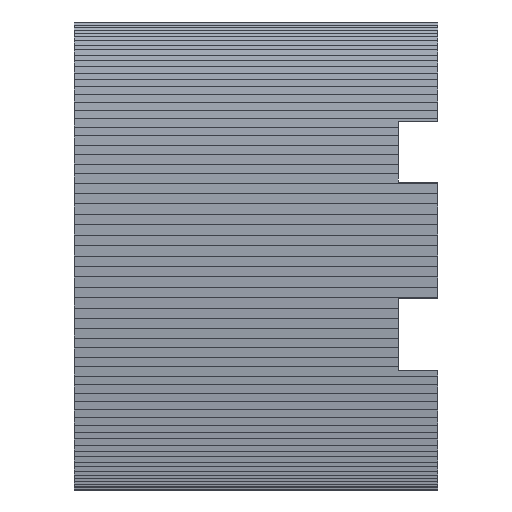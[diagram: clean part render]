
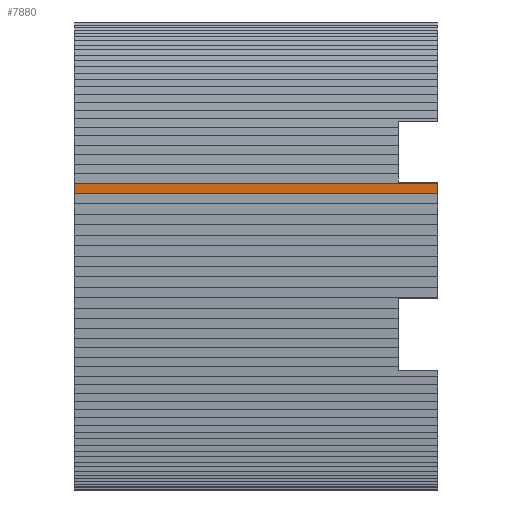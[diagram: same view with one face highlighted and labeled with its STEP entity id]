
A CAD part, front view. The second image highlights one B-rep face of the part: STEP entity #7880.
In plain terms, the highlighted planar face has unit normal (0, -1, -0.023).
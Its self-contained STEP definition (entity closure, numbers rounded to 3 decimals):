
#44 = PLANE('',#45);
#45 = AXIS2_PLACEMENT_3D('',#46,#47,#48);
#46 = CARTESIAN_POINT('',(34.,0.,-74.021));
#47 = DIRECTION('',(-1.,-0.,-0.));
#48 = DIRECTION('',(0.,0.,-1.));
#3188 = VERTEX_POINT('',#3189);
#3189 = CARTESIAN_POINT('',(34.,-8.269,-56.377));
#3203 = PLANE('',#3204);
#3204 = AXIS2_PLACEMENT_3D('',#3205,#3206,#3207);
#3205 = CARTESIAN_POINT('',(34.,-8.176,-59.424));
#3206 = DIRECTION('',(0.,-1.,-0.03));
#3207 = DIRECTION('',(0.,-0.03,1.));
#3215 = EDGE_CURVE('',#3188,#3216,#3218,.T.);
#3216 = VERTEX_POINT('',#3217);
#3217 = CARTESIAN_POINT('',(34.,-8.338,-53.369));
#3218 = SURFACE_CURVE('',#3219,(#3223,#3230),.PCURVE_S1.);
#3219 = LINE('',#3220,#3221);
#3220 = CARTESIAN_POINT('',(34.,-8.269,-56.377));
#3221 = VECTOR('',#3222,1.);
#3222 = DIRECTION('',(0.,-0.023,1.));
#3223 = PCURVE('',#44,#3224);
#3224 = DEFINITIONAL_REPRESENTATION('',(#3225),#3229);
#3225 = LINE('',#3226,#3227);
#3226 = CARTESIAN_POINT('',(-17.644,8.269));
#3227 = VECTOR('',#3228,1.);
#3228 = DIRECTION('',(-1.,0.023));
#3229 = ( GEOMETRIC_REPRESENTATION_CONTEXT(2) 
PARAMETRIC_REPRESENTATION_CONTEXT() REPRESENTATION_CONTEXT('2D SPACE',''
  ) );
#3230 = PCURVE('',#3231,#3236);
#3231 = PLANE('',#3232);
#3232 = AXIS2_PLACEMENT_3D('',#3233,#3234,#3235);
#3233 = CARTESIAN_POINT('',(34.,-8.269,-56.377));
#3234 = DIRECTION('',(0.,-1.,-0.023));
#3235 = DIRECTION('',(0.,-0.023,1.));
#3236 = DEFINITIONAL_REPRESENTATION('',(#3237),#3241);
#3237 = LINE('',#3238,#3239);
#3238 = CARTESIAN_POINT('',(0.,0.));
#3239 = VECTOR('',#3240,1.);
#3240 = DIRECTION('',(1.,0.));
#3241 = ( GEOMETRIC_REPRESENTATION_CONTEXT(2) 
PARAMETRIC_REPRESENTATION_CONTEXT() REPRESENTATION_CONTEXT('2D SPACE',''
  ) );
#3259 = PLANE('',#3260);
#3260 = AXIS2_PLACEMENT_3D('',#3261,#3262,#3263);
#3261 = CARTESIAN_POINT('',(34.,-8.338,-53.369));
#3262 = DIRECTION('',(0.,-1.,-0.015));
#3263 = DIRECTION('',(0.,-0.015,1.));
#7739 = EDGE_CURVE('',#7740,#3216,#7742,.T.);
#7740 = VERTEX_POINT('',#7741);
#7741 = CARTESIAN_POINT('',(142.8,-8.338,-53.369));
#7742 = SURFACE_CURVE('',#7743,(#7747,#7754),.PCURVE_S1.);
#7743 = LINE('',#7744,#7745);
#7744 = CARTESIAN_POINT('',(220.,-8.338,-53.369));
#7745 = VECTOR('',#7746,1.);
#7746 = DIRECTION('',(-1.,0.,0.));
#7747 = PCURVE('',#3259,#7748);
#7748 = DEFINITIONAL_REPRESENTATION('',(#7749),#7753);
#7749 = LINE('',#7750,#7751);
#7750 = CARTESIAN_POINT('',(0.,-186.));
#7751 = VECTOR('',#7752,1.);
#7752 = DIRECTION('',(0.,1.));
#7753 = ( GEOMETRIC_REPRESENTATION_CONTEXT(2) 
PARAMETRIC_REPRESENTATION_CONTEXT() REPRESENTATION_CONTEXT('2D SPACE',''
  ) );
#7754 = PCURVE('',#3231,#7755);
#7755 = DEFINITIONAL_REPRESENTATION('',(#7756),#7760);
#7756 = LINE('',#7757,#7758);
#7757 = CARTESIAN_POINT('',(3.009,-186.));
#7758 = VECTOR('',#7759,1.);
#7759 = DIRECTION('',(0.,1.));
#7760 = ( GEOMETRIC_REPRESENTATION_CONTEXT(2) 
PARAMETRIC_REPRESENTATION_CONTEXT() REPRESENTATION_CONTEXT('2D SPACE',''
  ) );
#7777 = PLANE('',#7778);
#7778 = AXIS2_PLACEMENT_3D('',#7779,#7780,#7781);
#7779 = CARTESIAN_POINT('',(142.8,-25.,-155.));
#7780 = DIRECTION('',(1.,0.,0.));
#7781 = DIRECTION('',(0.,0.,1.));
#7880 = ADVANCED_FACE('',(#7881),#3231,.T.);
#7881 = FACE_BOUND('',#7882,.T.);
#7882 = EDGE_LOOP('',(#7883,#7884,#7907,#7926));
#7883 = ORIENTED_EDGE('',*,*,#3215,.F.);
#7884 = ORIENTED_EDGE('',*,*,#7885,.F.);
#7885 = EDGE_CURVE('',#7886,#3188,#7888,.T.);
#7886 = VERTEX_POINT('',#7887);
#7887 = CARTESIAN_POINT('',(142.8,-8.269,-56.377));
#7888 = SURFACE_CURVE('',#7889,(#7893,#7900),.PCURVE_S1.);
#7889 = LINE('',#7890,#7891);
#7890 = CARTESIAN_POINT('',(220.,-8.269,-56.377));
#7891 = VECTOR('',#7892,1.);
#7892 = DIRECTION('',(-1.,0.,0.));
#7893 = PCURVE('',#3231,#7894);
#7894 = DEFINITIONAL_REPRESENTATION('',(#7895),#7899);
#7895 = LINE('',#7896,#7897);
#7896 = CARTESIAN_POINT('',(0.,-186.));
#7897 = VECTOR('',#7898,1.);
#7898 = DIRECTION('',(0.,1.));
#7899 = ( GEOMETRIC_REPRESENTATION_CONTEXT(2) 
PARAMETRIC_REPRESENTATION_CONTEXT() REPRESENTATION_CONTEXT('2D SPACE',''
  ) );
#7900 = PCURVE('',#3203,#7901);
#7901 = DEFINITIONAL_REPRESENTATION('',(#7902),#7906);
#7902 = LINE('',#7903,#7904);
#7903 = CARTESIAN_POINT('',(3.048,-186.));
#7904 = VECTOR('',#7905,1.);
#7905 = DIRECTION('',(0.,1.));
#7906 = ( GEOMETRIC_REPRESENTATION_CONTEXT(2) 
PARAMETRIC_REPRESENTATION_CONTEXT() REPRESENTATION_CONTEXT('2D SPACE',''
  ) );
#7907 = ORIENTED_EDGE('',*,*,#7908,.T.);
#7908 = EDGE_CURVE('',#7886,#7740,#7909,.T.);
#7909 = SURFACE_CURVE('',#7910,(#7914,#7920),.PCURVE_S1.);
#7910 = LINE('',#7911,#7912);
#7911 = CARTESIAN_POINT('',(142.8,-7.143,-105.471));
#7912 = VECTOR('',#7913,1.);
#7913 = DIRECTION('',(0.,-0.023,1.));
#7914 = PCURVE('',#3231,#7915);
#7915 = DEFINITIONAL_REPRESENTATION('',(#7916),#7919);
#7916 = B_SPLINE_CURVE_WITH_KNOTS('',1,(#7917,#7918),.UNSPECIFIED.,.F.,
  .F.,(2,2),(49.106,52.116),.PIECEWISE_BEZIER_KNOTS.);
#7917 = CARTESIAN_POINT('',(0.,-108.8));
#7918 = CARTESIAN_POINT('',(3.009,-108.8));
#7919 = ( GEOMETRIC_REPRESENTATION_CONTEXT(2) 
PARAMETRIC_REPRESENTATION_CONTEXT() REPRESENTATION_CONTEXT('2D SPACE',''
  ) );
#7920 = PCURVE('',#7777,#7921);
#7921 = DEFINITIONAL_REPRESENTATION('',(#7922),#7925);
#7922 = B_SPLINE_CURVE_WITH_KNOTS('',1,(#7923,#7924),.UNSPECIFIED.,.F.,
  .F.,(2,2),(49.106,52.116),.PIECEWISE_BEZIER_KNOTS.);
#7923 = CARTESIAN_POINT('',(98.623,-16.731));
#7924 = CARTESIAN_POINT('',(101.631,-16.662));
#7925 = ( GEOMETRIC_REPRESENTATION_CONTEXT(2) 
PARAMETRIC_REPRESENTATION_CONTEXT() REPRESENTATION_CONTEXT('2D SPACE',''
  ) );
#7926 = ORIENTED_EDGE('',*,*,#7739,.T.);
